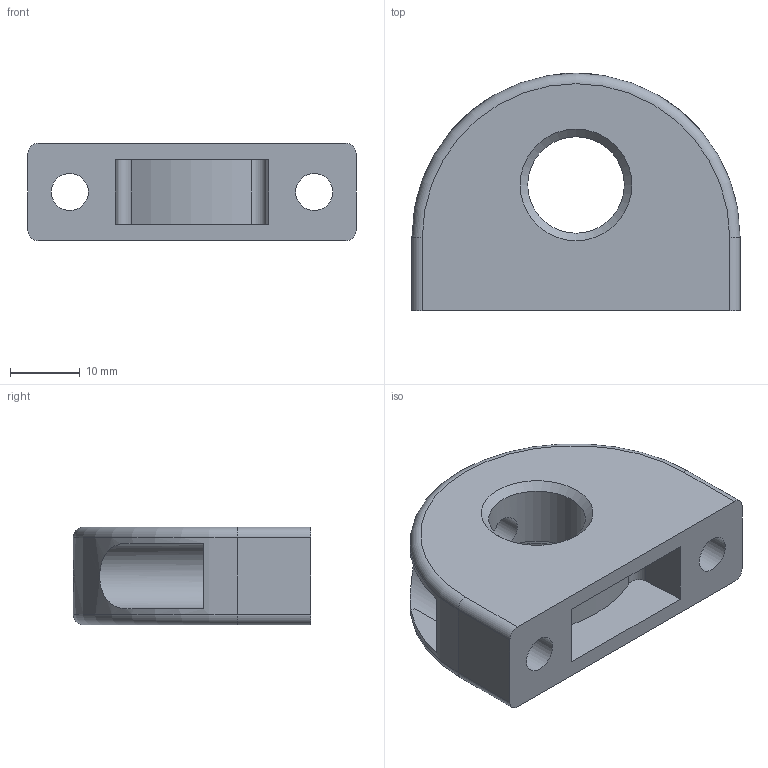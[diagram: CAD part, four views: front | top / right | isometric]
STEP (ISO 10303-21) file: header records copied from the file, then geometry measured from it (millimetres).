
FILE_DESCRIPTION( ( 'STEP AP203' ), '1' );
FILE_NAME( 'C:/Temp/Ganter_Step_05_03_2020/data/3_1/gn412_1/Mounting block GN 412.1-47-M16-1.stp', '2020-03-12T08:30:53', ( 'License CC BY-ND 4.0' ), ( 'CADENAS' ), ' ', 'PARTsolutions', ' ' );
FILE_SCHEMA( ( 'CONFIG_CONTROL_DESIGN' ) );
Length unit declared in the file: millimetre
Products named in the file (1): _Mounting block GN 412.1-47-M16-1
Bounding box: 47 x 34 x 14 mm (x, y, z)
Volume: 12446.2 mm3; surface area: 6340.6 mm2
Topology: 1 solids, 1 shells, 56 faces, 128 edges, 81 vertices
Faces by surface type: plane 31, cylinder 19, cone 4, torus 2
Full cylindrical faces by diameter (mm): 3 x1, 5 x2, 5.3 x2, 9.4 x2, 13.835 x1, 16.2 x1
Entity records: 1720 total; most frequent: CARTESIAN_POINT 457, DIRECTION 262, ORIENTED_EDGE 222, EDGE_CURVE 111, AXIS2_PLACEMENT_3D 100, EDGE_LOOP 80, VERTEX_POINT 79, FACE_OUTER_BOUND 63
